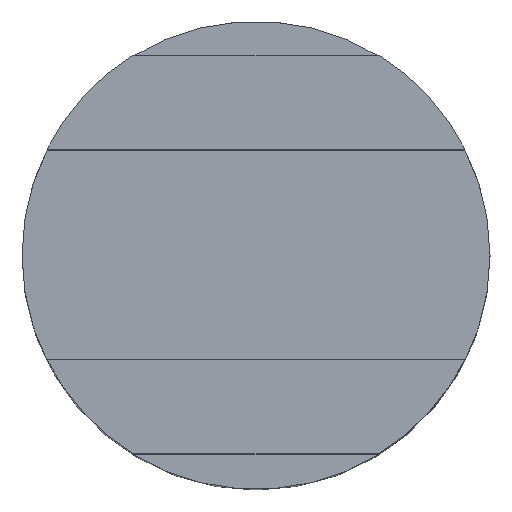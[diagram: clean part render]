
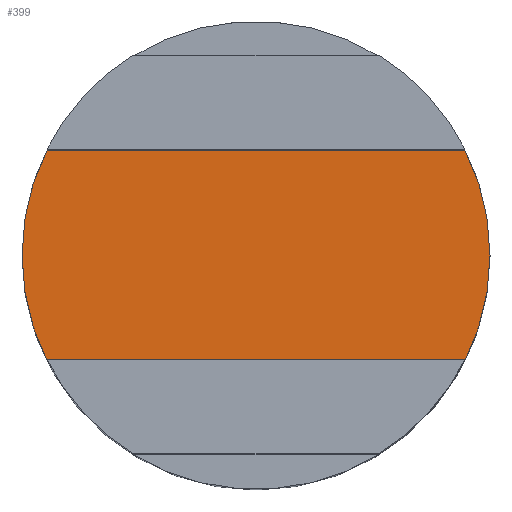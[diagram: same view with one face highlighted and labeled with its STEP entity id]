
A CAD part, top view. The second image highlights one B-rep face of the part: STEP entity #399.
In plain terms, the highlighted planar face has unit normal (0, 0, 1).
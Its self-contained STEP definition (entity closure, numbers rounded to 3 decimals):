
#31=LINE('',#584,#47);
#34=LINE('',#593,#50);
#47=VECTOR('',#497,1000.);
#50=VECTOR('',#510,1000.);
#100=ORIENTED_EDGE('',*,*,#137,.T.);
#101=ORIENTED_EDGE('',*,*,#148,.F.);
#102=ORIENTED_EDGE('',*,*,#145,.T.);
#103=ORIENTED_EDGE('',*,*,#152,.T.);
#137=EDGE_CURVE('',#171,#170,#192,.T.);
#145=EDGE_CURVE('',#164,#178,#196,.T.);
#148=EDGE_CURVE('',#164,#170,#31,.T.);
#152=EDGE_CURVE('',#178,#171,#34,.T.);
#164=VERTEX_POINT('',#550);
#170=VERTEX_POINT('',#562);
#171=VERTEX_POINT('',#564);
#178=VERTEX_POINT('',#578);
#192=CIRCLE('',#425,10.);
#196=CIRCLE('',#429,10.);
#217=EDGE_LOOP('',(#100,#101,#102,#103));
#245=FACE_BOUND('',#217,.T.);
#264=PLANE('',#436);
#399=ADVANCED_FACE('',(#245),#264,.T.);
#425=AXIS2_PLACEMENT_3D('',#563,#478,#479);
#429=AXIS2_PLACEMENT_3D('',#579,#490,#491);
#436=AXIS2_PLACEMENT_3D('',#592,#508,#509);
#478=DIRECTION('',(0.,0.,1.));
#479=DIRECTION('',(1.,0.,0.));
#490=DIRECTION('',(0.,0.,1.));
#491=DIRECTION('',(1.,0.,0.));
#497=DIRECTION('',(-1.,0.,0.));
#508=DIRECTION('',(0.,0.,1.));
#509=DIRECTION('',(1.,0.,0.));
#510=DIRECTION('',(-1.,0.,0.));
#550=CARTESIAN_POINT('',(8.93,-4.5,-22.));
#562=CARTESIAN_POINT('',(-8.93,-4.5,-22.));
#563=CARTESIAN_POINT('',(0.,0.,-22.));
#564=CARTESIAN_POINT('',(-8.93,4.5,-22.));
#578=CARTESIAN_POINT('',(8.93,4.5,-22.));
#579=CARTESIAN_POINT('',(0.,0.,-22.));
#584=CARTESIAN_POINT('',(57.717,-4.5,-22.));
#592=CARTESIAN_POINT('',(57.717,-4.5,-22.));
#593=CARTESIAN_POINT('',(57.717,4.5,-22.));
